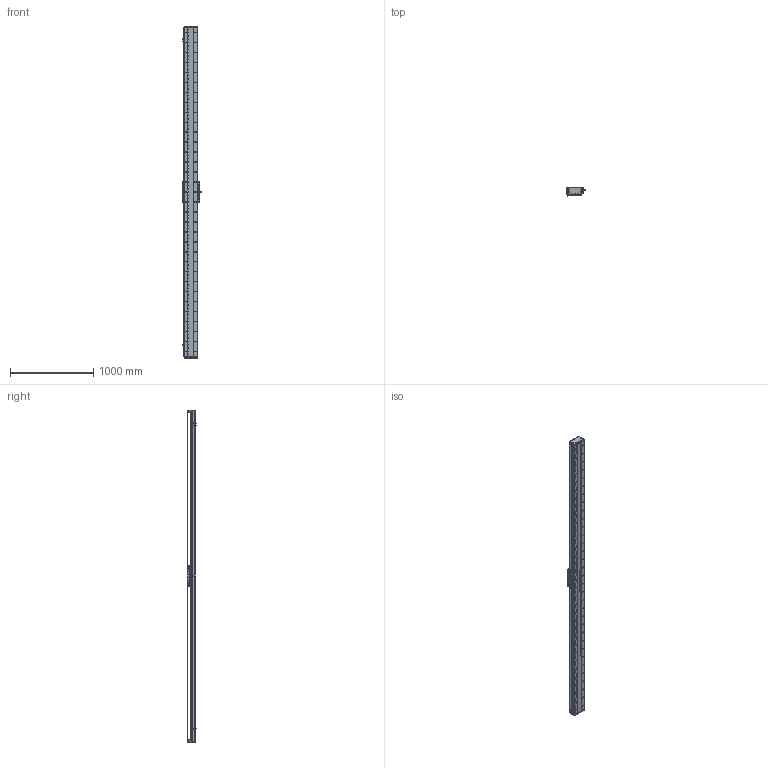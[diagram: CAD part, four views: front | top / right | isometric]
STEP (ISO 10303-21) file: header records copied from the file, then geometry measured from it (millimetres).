
FILE_DESCRIPTION (( 'STEP AP203' ), '1' );
FILE_NAME ('DA-C165-C3-T3660-C010-0.2 直线电机.STEP', '2023-06-13T09:06:06', ( '微软用户' ), ( '微软中国' ), 'SwSTEP 2.0', 'SolidWorks 2019', '' );
FILE_SCHEMA (( 'CONFIG_CONTROL_DESIGN' ));
Length unit declared in the file: millimetre
Products named in the file (18): 复件 DA165-GD-1860-002-00 钢带盖板^复件 CU165钢带组件_DA-C165-C3-T-C010-0.2-N 直线电机; 复件 CU165钢带组件^DA-C165-C3-T-C010-0.2-N 直线电机; 葩璃 CKM01-W075-TRL^DA-C165-C3-T-C010-0.2-N 眻盄萇儂; 复件 DA165-GD-DG-H-00 端盖^复件 CU165钢带组件_DA-C165-C3-T-C010-0.2-N 直线电机; 复件 DMA-010-0.2 读数头^DA-C165-C3-T-C010-0.2-N 直线电机; 复件 DA165-GDYK-00 钢带压块^复件 CU165钢带组件_DA-C165-C3-T-C010-0.2-N 直线电机; 复件 DA165-GYP-00 光电感应片^DA-C165-C3-T-C010-0.2-N 直线电机; 葩璃 DA95-GT-T-00^IU-CU165-L 菁釱絳寢_T; 葩璃 CKM03-W075-C1C2-TP-3.0^DA-C165-C3-T-C010-0.2-N 眻盄萇儂; 珨极趙賑雄怢啣C3-wf; 复件 DA165-GDLK-00 钢带拉块^复件 CU165钢带组件_DA-C165-C3-T-C010-0.2-N 直线电机; 复件 DA95-HXJ-00 缓冲橡胶^DA-C165-C3-T-C010-0.2-N 直线电机; 葩璃 PM-T45^DA-C165-C3-T-C010-0.2-N 眻盄萇儂; DA-C165-C3-T3660-C010-0.2 眻盄萇儂; 复件 XD-U-02L 磁栅尺^DA-C165-C3-T-C010-0.2-N 直线电机_T; IU-CU165-L 菁釱絳寢; 复件 CU165 底座^IU-CU165-L 底座导轨_L3960; 复件 六角薄螺母 M3^DA-C165-C3-T-C010-0.2-N 直线电机_GB_FASTENER_NUT_STNAB M3-C
Assembly tree (35 placements, depth 3):
  DA-C165-C3-T3660-C010-0.2 眻盄萇儂
    IU-CU165-L 菁釱絳寢
      复件 CU165 底座^IU-CU165-L 底座导轨_L3960
      葩璃 DA95-GT-T-00^IU-CU165-L 菁釱絳寢_T  x4
    复件 XD-U-02L 磁栅尺^DA-C165-C3-T-C010-0.2-N 直线电机_T
    葩璃 PM-T45^DA-C165-C3-T-C010-0.2-N 眻盄萇儂  x3
    葩璃 CKM01-W075-TRL^DA-C165-C3-T-C010-0.2-N 眻盄萇儂
    复件 CU165钢带组件^DA-C165-C3-T-C010-0.2-N 直线电机
      复件 DA165-GD-DG-H-00 端盖^复件 CU165钢带组件_DA-C165-C3-T-C010-0.2-N 直线电机  x2
      复件 DA165-GDYK-00 钢带压块^复件 CU165钢带组件_DA-C165-C3-T-C010-0.2-N 直线电机  x2
      复件 DA165-GD-1860-002-00 钢带盖板^复件 CU165钢带组件_DA-C165-C3-T-C010-0.2-N 直线电机
      复件 DA165-GDLK-00 钢带拉块^复件 CU165钢带组件_DA-C165-C3-T-C010-0.2-N 直线电机  x2
    复件 DA95-HXJ-00 缓冲橡胶^DA-C165-C3-T-C010-0.2-N 直线电机  x4
    复件 DA165-GYP-00 光电感应片^DA-C165-C3-T-C010-0.2-N 直线电机
    复件 DMA-010-0.2 读数头^DA-C165-C3-T-C010-0.2-N 直线电机
    葩璃 CKM03-W075-C1C2-TP-3.0^DA-C165-C3-T-C010-0.2-N 眻盄萇儂
    复件 六角薄螺母 M3^DA-C165-C3-T-C010-0.2-N 直线电机_GB_FASTENER_NUT_STNAB M3-C  x8
    珨极趙賑雄怢啣C3-wf
Bounding box: 233 x 111.45 x 4000 mm (x, y, z)
Volume: 21700933 mm3; surface area: 6598140.2 mm2
Topology: 72 solids, 122 shells, 5038 faces, 15033 edges, 9606 vertices
Faces by surface type: cylinder 3152, plane 1260, cone 576, torus 46, sphere 4
Entity records: 177865 total; most frequent: CARTESIAN_POINT 51089, ORIENTED_EDGE 26818, DIRECTION 25413, EDGE_CURVE 13409, AXIS2_PLACEMENT_3D 9830, VERTEX_POINT 8794, EDGE_LOOP 6121, VECTOR 5753
